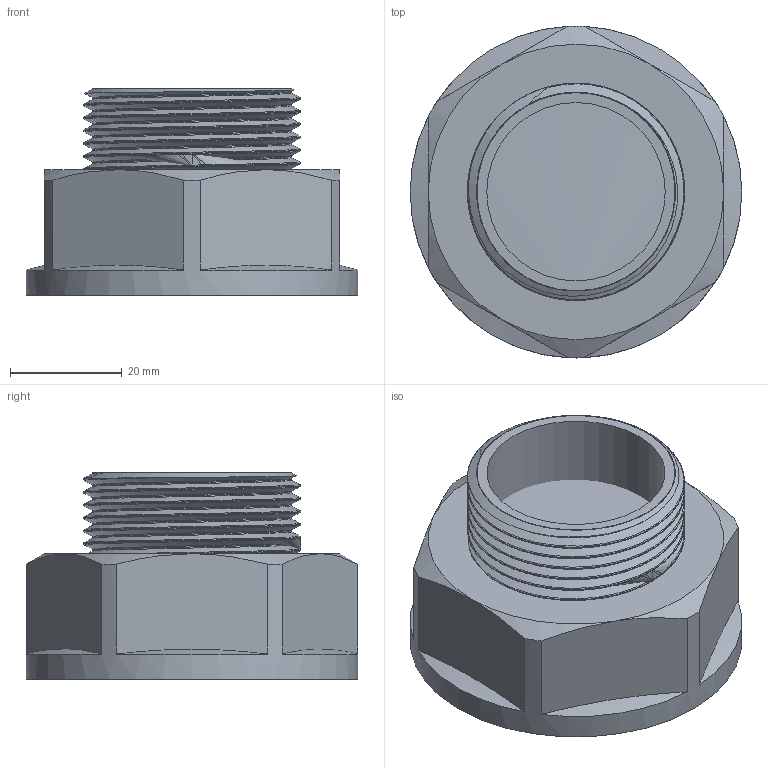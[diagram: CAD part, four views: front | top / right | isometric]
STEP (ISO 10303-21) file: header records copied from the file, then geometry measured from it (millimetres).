
FILE_DESCRIPTION(/* description */ (''),/* implementation_level */ '2;1');
FILE_NAME(/* name */ 'C:\Users\Doom\Desktop\Фадотех\Резьба\P07 18.03.2020\P07 18.03.2020.stp',/* time_stamp */ '2022-01-12T01:21:37+02:00',/* author */ ('Doom'),/* organization */ (''),/* preprocessor_version */ 'ST-DEVELOPER v18',/* originating_system */ 'Autodesk Inventor 2020',/* authorisation */ '');
FILE_SCHEMA (('AUTOMOTIVE_DESIGN { 1 0 10303 214 3 1 1 }'));
Length unit declared in the file: millimetre
Products named in the file (1): P06 18.03.2020
Bounding box: 59.5 x 59.5 x 37 mm (x, y, z)
Volume: 27452.8 mm3; surface area: 27348.3 mm2
Topology: 3 solids, 3 shells, 64 faces, 181 edges, 123 vertices
Faces by surface type: cylinder 23, cone 15, plane 14, bspline 12
Full cylindrical faces by diameter (mm): 32 x1, 35.526 x2, 38.95 x6, 44.376 x7, 47.8 x2, 59.5 x1
Entity records: 10444 total; most frequent: CARTESIAN_POINT 8942, ORIENTED_EDGE 354, DIRECTION 238, EDGE_CURVE 177, VERTEX_POINT 121, AXIS2_PLACEMENT_3D 102, EDGE_LOOP 72, B_SPLINE_CURVE_WITH_KNOTS 70
